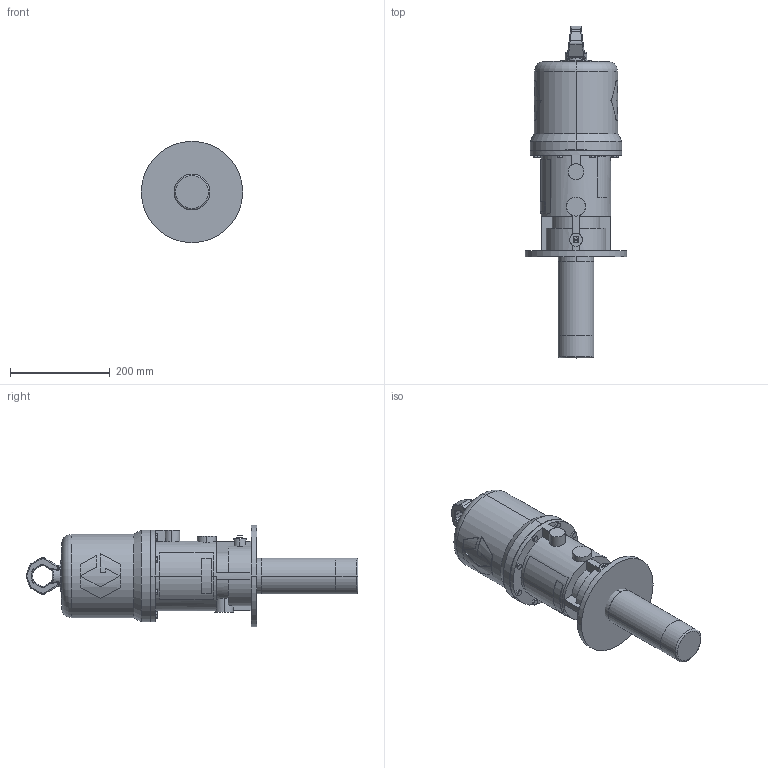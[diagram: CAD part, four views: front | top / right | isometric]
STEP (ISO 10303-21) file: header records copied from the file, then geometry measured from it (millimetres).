
FILE_DESCRIPTION((''),'2;1');
FILE_NAME('238108-EN-ZAA_PRT','2024-02-21T09:38:10',('qtmwp1'),(''),'CREO PARAMETRIC BY PTC INC, 2021072','CREO PARAMETRIC BY PTC INC, 2021072','');
FILE_SCHEMA(('CONFIG_CONTROL_DESIGN'));
Length unit declared in the file: inch
Products named in the file (1): 238108-EN-ZAA_PRT
Bounding box: 203.2 x 665.99 x 203.2 mm (x, y, z)
Surface area: 407118.7 mm2 (no closed solid volume)
Topology: 0 solids, 35 shells, 325 faces, 1027 edges, 717 vertices
Faces by surface type: plane 149, cylinder 96, cone 46, bspline 28, torus 6
Entity records: 13213 total; most frequent: CARTESIAN_POINT 5012, ORIENTED_EDGE 1609, DIRECTION 1520, EDGE_CURVE 1027, VERTEX_POINT 717, AXIS2_PLACEMENT_3D 555, VECTOR 410, LINE 410
